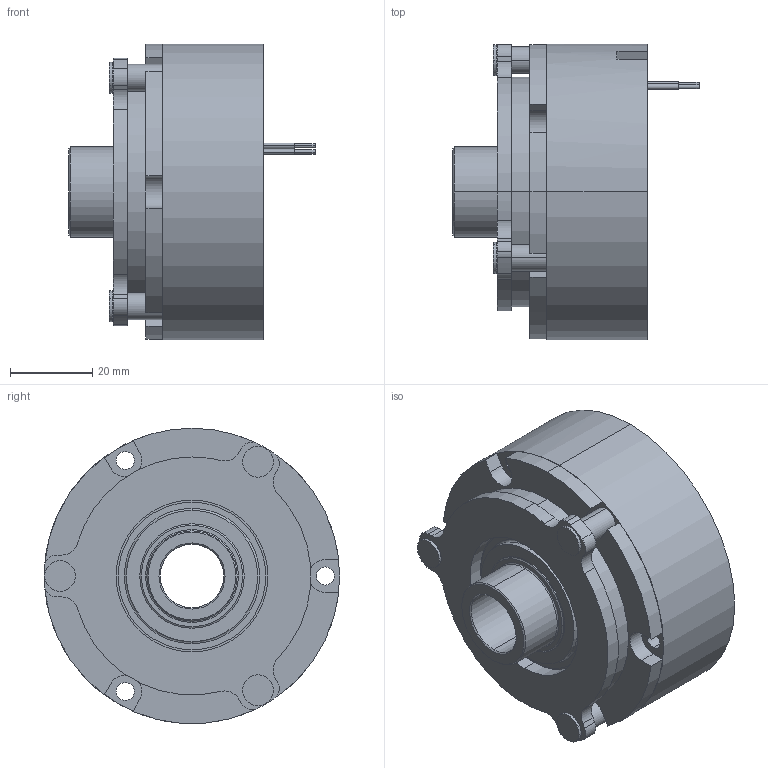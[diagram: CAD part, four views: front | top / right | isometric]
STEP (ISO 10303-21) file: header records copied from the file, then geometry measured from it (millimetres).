
FILE_DESCRIPTION (( 'STEP AP203' ), '1' );
FILE_NAME ('KS_10007A00_00472852.STEP', '2017-11-21T12:46:10', ( '' ), ( '' ), 'SwSTEP 2.0', 'SolidWorks 2015', '' );
FILE_SCHEMA (( 'CONFIG_CONTROL_DESIGN' ));
Length unit declared in the file: millimetre
Products named in the file (1): KS_10007A00_00472852
Bounding box: 59.97 x 72 x 72 mm (x, y, z)
Volume: 126117.9 mm3; surface area: 29697.8 mm2
Topology: 1 solids, 1 shells, 155 faces, 378 edges, 246 vertices
Faces by surface type: cylinder 91, plane 44, cone 12, torus 6, bspline 2
Entity records: 4769 total; most frequent: DIRECTION 896, CARTESIAN_POINT 816, ORIENTED_EDGE 756, EDGE_CURVE 378, AXIS2_PLACEMENT_3D 366, VERTEX_POINT 246, CIRCLE 212, EDGE_LOOP 190
